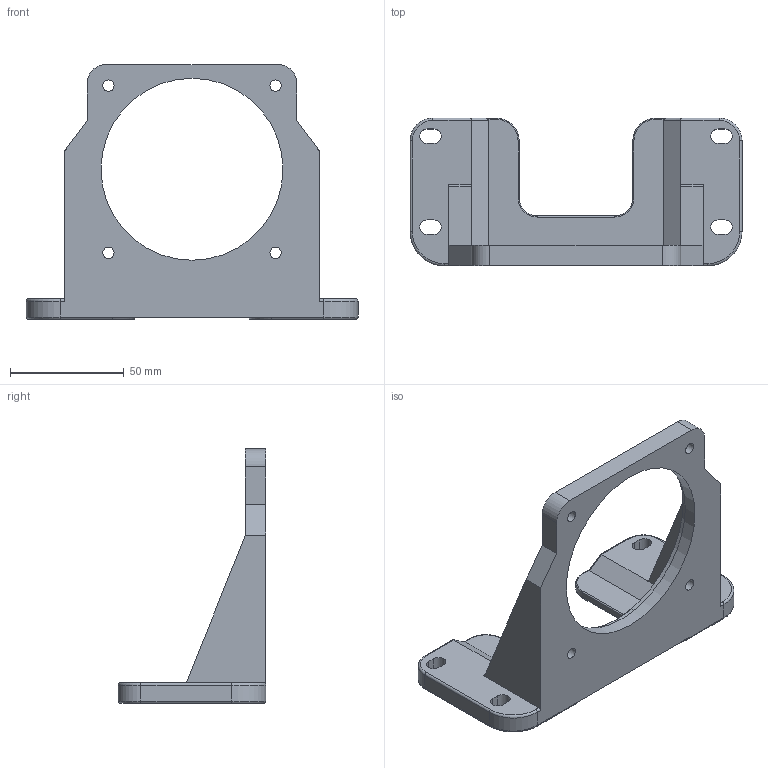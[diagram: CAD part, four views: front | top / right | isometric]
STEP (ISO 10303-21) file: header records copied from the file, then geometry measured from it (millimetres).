
FILE_DESCRIPTION((''),'2;1');
FILE_NAME('E:\2공장-도면\3D\표준형 3D(민규)\step file\BRACKET\K9B-M6.stp','2014-11-25T12:38:15',('AHN'),(''),'Autodesk Inventor 2012','Autodesk Inventor 2012','');
FILE_SCHEMA(('CONFIG_CONTROL_DESIGN'));
Length unit declared in the file: millimetre
Products named in the file (1): K9B-M6
Bounding box: 146 x 65 x 112 mm (x, y, z)
Volume: 104015.1 mm3; surface area: 40209.8 mm2
Topology: 1 solids, 1 shells, 215 faces, 566 edges, 365 vertices
Faces by surface type: cylinder 114, plane 84, torus 17
Full cylindrical faces by diameter (mm): 5 x4, 80 x1, 83.2 x1
Entity records: 6730 total; most frequent: DIRECTION 1234, CARTESIAN_POINT 1158, ORIENTED_EDGE 1118, EDGE_CURVE 559, AXIS2_PLACEMENT_3D 461, VERTEX_POINT 365, VECTOR 312, LINE 312
